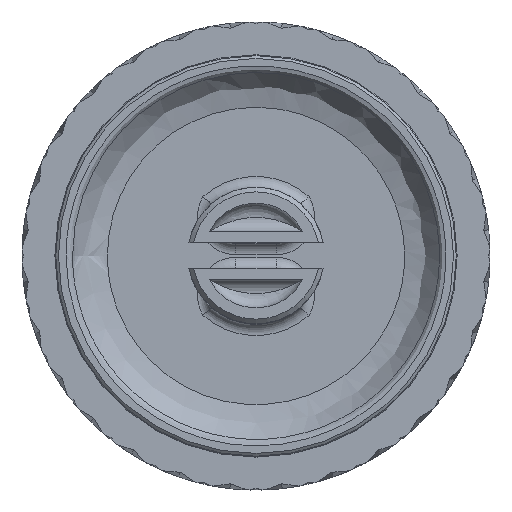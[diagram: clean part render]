
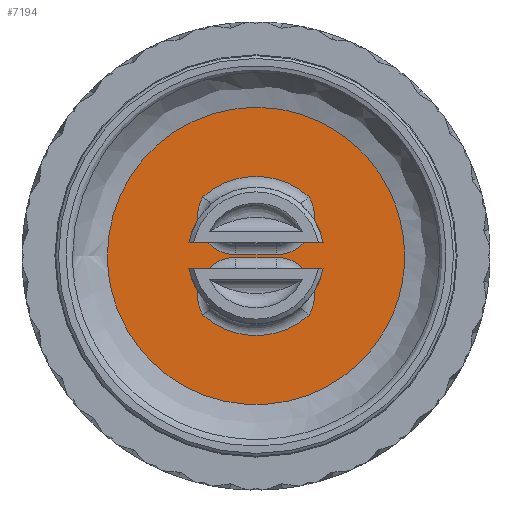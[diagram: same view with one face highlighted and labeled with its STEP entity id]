
A CAD part, top view. The second image highlights one B-rep face of the part: STEP entity #7194.
In plain terms, the highlighted planar face has unit normal (0, 0, 1).
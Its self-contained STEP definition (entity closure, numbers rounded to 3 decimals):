
#354=FACE_BOUND('',#1822,.T.);
#355=FACE_BOUND('',#1823,.T.);
#846=PLANE('',#8087);
#1000=CIRCLE('',#8077,8.5);
#1002=CIRCLE('',#8080,4.073);
#1006=CIRCLE('',#8086,4.073);
#1007=CIRCLE('',#8088,8.5);
#1008=CIRCLE('',#8089,4.073);
#1009=CIRCLE('',#8090,4.073);
#1416=FACE_OUTER_BOUND('',#1821,.T.);
#1821=EDGE_LOOP('',(#6695));
#1822=EDGE_LOOP('',(#6696,#6697,#6698,#6699));
#1823=EDGE_LOOP('',(#6700,#6701,#6702,#6703));
#1907=B_SPLINE_CURVE_WITH_KNOTS('',3,(#13752,#13753,#13754,#13755,#13756,
#13757,#13758,#13759,#13760,#13761,#13762,#13763,#13764,#13765,#13766,#13767,
#13768,#13769,#13770),.UNSPECIFIED.,.T.,.F.,(4,1,1,1,1,1,1,1,1,1,1,1,1,
1,1,1,4),(-14.877,-14.169,-13.46,-12.516,
-12.043,-11.571,-11.099,-10.626,
-9.682,-9.21,-8.737,-7.793,
-7.084,-6.376,-5.667,-5.313,
-4.959),.UNSPECIFIED.);
#2318=LINE('',#13743,#2733);
#2320=LINE('',#13777,#2735);
#2733=VECTOR('',#10240,10.);
#2735=VECTOR('',#10256,10.);
#3439=VERTEX_POINT('',#13704);
#3440=VERTEX_POINT('',#13705);
#3442=VERTEX_POINT('',#13738);
#3443=VERTEX_POINT('',#13742);
#3445=VERTEX_POINT('',#13751);
#3446=VERTEX_POINT('',#13771);
#3447=VERTEX_POINT('',#13772);
#3448=VERTEX_POINT('',#13774);
#3449=VERTEX_POINT('',#13776);
#4531=EDGE_CURVE('',#3439,#3440,#1000,.T.);
#4535=EDGE_CURVE('',#3440,#3442,#1002,.T.);
#4537=EDGE_CURVE('',#3442,#3443,#2318,.T.);
#4541=EDGE_CURVE('',#3443,#3439,#1006,.T.);
#4542=EDGE_CURVE('',#3445,#3445,#1907,.T.);
#4543=EDGE_CURVE('',#3446,#3447,#1007,.T.);
#4544=EDGE_CURVE('',#3448,#3446,#1008,.T.);
#4545=EDGE_CURVE('',#3449,#3448,#2320,.T.);
#4546=EDGE_CURVE('',#3447,#3449,#1009,.T.);
#6695=ORIENTED_EDGE('',*,*,#4542,.F.);
#6696=ORIENTED_EDGE('',*,*,#4541,.F.);
#6697=ORIENTED_EDGE('',*,*,#4537,.F.);
#6698=ORIENTED_EDGE('',*,*,#4535,.F.);
#6699=ORIENTED_EDGE('',*,*,#4531,.F.);
#6700=ORIENTED_EDGE('',*,*,#4543,.F.);
#6701=ORIENTED_EDGE('',*,*,#4544,.F.);
#6702=ORIENTED_EDGE('',*,*,#4545,.F.);
#6703=ORIENTED_EDGE('',*,*,#4546,.F.);
#7194=ADVANCED_FACE('',(#1416,#354,#355),#846,.T.);
#8077=AXIS2_PLACEMENT_3D('',#13706,#10228,#10229);
#8080=AXIS2_PLACEMENT_3D('',#13739,#10234,#10235);
#8086=AXIS2_PLACEMENT_3D('',#13749,#10248,#10249);
#8087=AXIS2_PLACEMENT_3D('',#13750,#10250,#10251);
#8088=AXIS2_PLACEMENT_3D('',#13773,#10252,#10253);
#8089=AXIS2_PLACEMENT_3D('',#13775,#10254,#10255);
#8090=AXIS2_PLACEMENT_3D('',#13778,#10257,#10258);
#10228=DIRECTION('center_axis',(0.,0.,
1.));
#10229=DIRECTION('ref_axis',(0.,1.,0.));
#10234=DIRECTION('center_axis',(0.,0.,
1.));
#10235=DIRECTION('ref_axis',(-0.856,-0.517,0.));
#10240=DIRECTION('',(1.,0.,0.));
#10248=DIRECTION('center_axis',(0.,0.,
1.));
#10249=DIRECTION('ref_axis',(0.856,-0.517,0.));
#10250=DIRECTION('center_axis',(0.,0.,
1.));
#10251=DIRECTION('ref_axis',(1.,0.,0.));
#10252=DIRECTION('center_axis',(0.,0.,
1.));
#10253=DIRECTION('ref_axis',(0.,-1.,0.));
#10254=DIRECTION('center_axis',(0.,0.,
1.));
#10255=DIRECTION('ref_axis',(-0.856,0.517,0.));
#10256=DIRECTION('',(-1.,0.,0.));
#10257=DIRECTION('center_axis',(0.,0.,
1.));
#10258=DIRECTION('ref_axis',(0.856,0.517,0.));
#13704=CARTESIAN_POINT('',(5.671,6.331,-13.));
#13705=CARTESIAN_POINT('',(-5.671,6.331,-13.));
#13706=CARTESIAN_POINT('Origin',(0.,0.,
-13.));
#13738=CARTESIAN_POINT('',(-2.186,0.15,-13.));
#13739=CARTESIAN_POINT('Origin',(-2.186,4.223,-13.));
#13742=CARTESIAN_POINT('',(2.186,0.15,-13.));
#13743=CARTESIAN_POINT('',(-2.923,0.15,-13.));
#13749=CARTESIAN_POINT('Origin',(2.186,4.223,-13.));
#13750=CARTESIAN_POINT('Origin',(0.,0.,
-13.));
#13751=CARTESIAN_POINT('',(-15.88,-0.013,-13.));
#13752=CARTESIAN_POINT('Ctrl Pts',(-15.88,-0.013,
-13.));
#13753=CARTESIAN_POINT('Ctrl Pts',(-15.882,2.354,-13.));
#13754=CARTESIAN_POINT('Ctrl Pts',(-14.804,7.112,-13.));
#13755=CARTESIAN_POINT('Ctrl Pts',(-9.743,13.477,-13.));
#13756=CARTESIAN_POINT('Ctrl Pts',(-2.816,16.205,-13.));
#13757=CARTESIAN_POINT('Ctrl Pts',(3.582,15.712,-13.));
#13758=CARTESIAN_POINT('Ctrl Pts',(8.055,13.965,-13.));
#13759=CARTESIAN_POINT('Ctrl Pts',(11.811,10.965,-13.));
#13760=CARTESIAN_POINT('Ctrl Pts',(15.436,5.676,-13.));
#13761=CARTESIAN_POINT('Ctrl Pts',(16.42,-0.878,
-13.));
#13762=CARTESIAN_POINT('Ctrl Pts',(14.53,-6.959,-13.));
#13763=CARTESIAN_POINT('Ctrl Pts',(10.943,-12.282,-13.));
#13764=CARTESIAN_POINT('Ctrl Pts',(4.495,-16.012,-13.));
#13765=CARTESIAN_POINT('Ctrl Pts',(-3.634,-16.012,
-13.));
#13766=CARTESIAN_POINT('Ctrl Pts',(-10.222,-12.859,-13.));
#13767=CARTESIAN_POINT('Ctrl Pts',(-14.03,-8.086,
-13.));
#13768=CARTESIAN_POINT('Ctrl Pts',(-15.606,-3.587,
-13.));
#13769=CARTESIAN_POINT('Ctrl Pts',(-15.879,-1.196,
-13.));
#13770=CARTESIAN_POINT('Ctrl Pts',(-15.88,-0.013,
-13.));
#13771=CARTESIAN_POINT('',(-5.671,-6.331,-13.));
#13772=CARTESIAN_POINT('',(5.671,-6.331,-13.));
#13773=CARTESIAN_POINT('Origin',(0.,0.,
-13.));
#13774=CARTESIAN_POINT('',(-2.186,-0.15,-13.));
#13775=CARTESIAN_POINT('Origin',(-2.186,-4.223,-13.));
#13776=CARTESIAN_POINT('',(2.186,-0.15,-13.));
#13777=CARTESIAN_POINT('',(-3.587,-0.15,-13.));
#13778=CARTESIAN_POINT('Origin',(2.186,-4.223,-13.));
